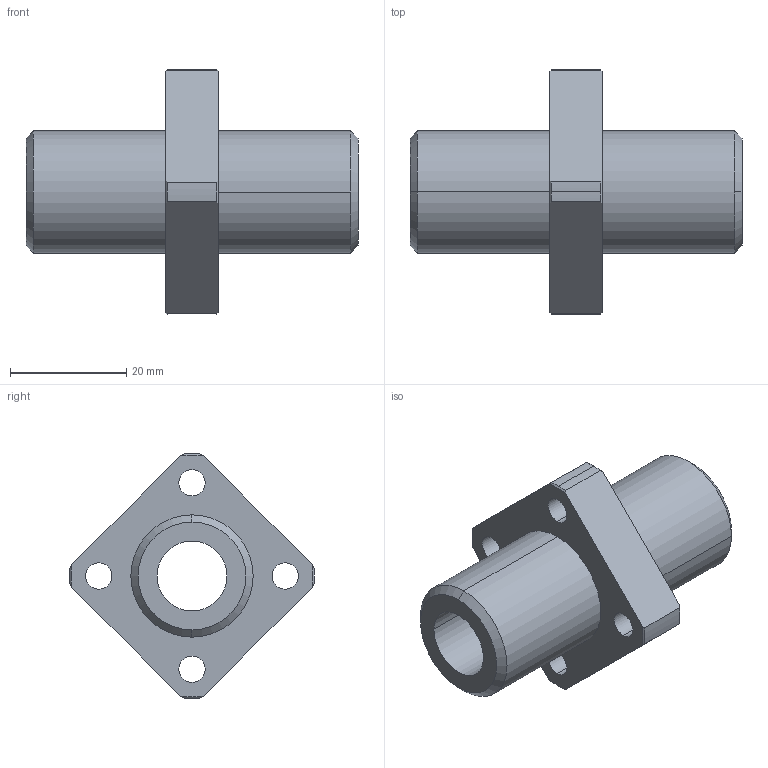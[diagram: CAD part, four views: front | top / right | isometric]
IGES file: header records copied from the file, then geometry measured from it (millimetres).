
Start section: 3D InterOp IGES (Version 21 0 1), Spatial Corp. Copyright (c) 1999-2007.
Global section: file name: CFPJ12.igs; native system: Spatial Corp.; preprocessor: 3D InterOp GENERIC/IGES 3.0; author: Noname; organization: Noname; date: 20220324.130254; units: millimetre
Bounding box: 57 x 41.98 x 42 mm (x, y, z)
Surface area: 8653.4 mm2 (no closed solid volume)
Topology: 0 solids, 0 shells, 53 faces, 264 edges, 264 vertices
Faces by surface type: revolution 41, extrusion 12
